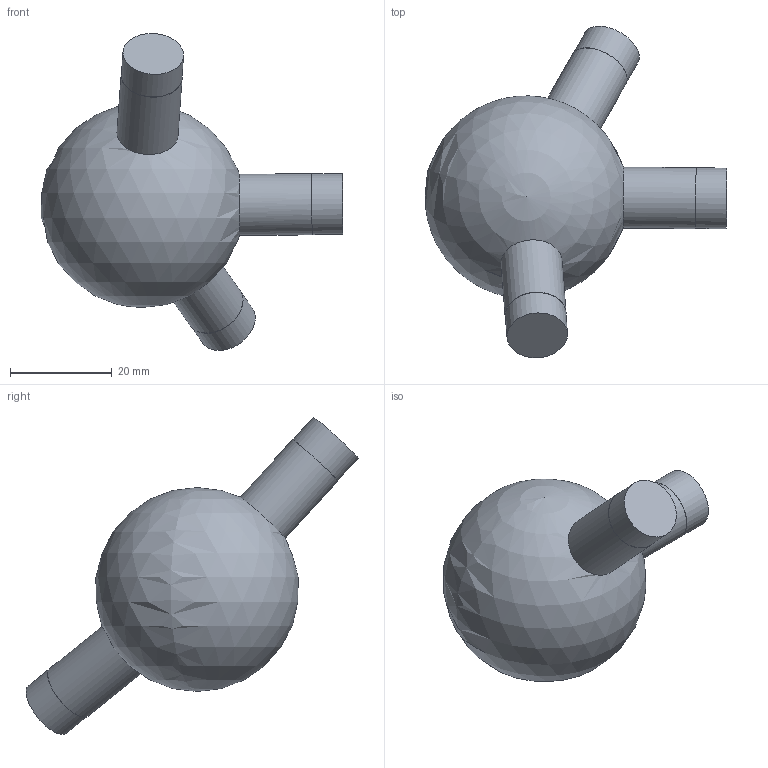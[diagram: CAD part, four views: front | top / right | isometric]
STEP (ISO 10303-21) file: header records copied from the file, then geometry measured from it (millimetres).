
FILE_DESCRIPTION(('Open CASCADE Model'),'2;1');
FILE_NAME('Open CASCADE Shape Model','2026-10-21T12:47:57',('Author'),( 'Open CASCADE'),'Open CASCADE STEP processor 7.9','Open CASCADE 7.9' ,'Unknown');
FILE_SCHEMA(('AUTOMOTIVE_DESIGN { 1 0 10303 214 1 1 1 1 }'));
Length unit declared in the file: millimetre
Products named in the file (1): Open CASCADE STEP translator 7.9 157
Bounding box: 59.2 x 65.14 x 62.2 mm (x, y, z)
Volume: 40515.9 mm3; surface area: 7411.8 mm2
Topology: 1 solids, 1 shells, 13 faces, 23 edges, 16 vertices
Faces by surface type: cylinder 6, plane 6, sphere 1
Full cylindrical faces by diameter (mm): 11.9 x3, 12 x3
Entity records: 808 total; most frequent: CARTESIAN_POINT 294, DIRECTION 105, ORIENTED_EDGE 44, PCURVE 44, DEFINITIONAL_REPRESENTATION 44, LINE 36, VECTOR 36, AXIS2_PLACEMENT_3D 30
